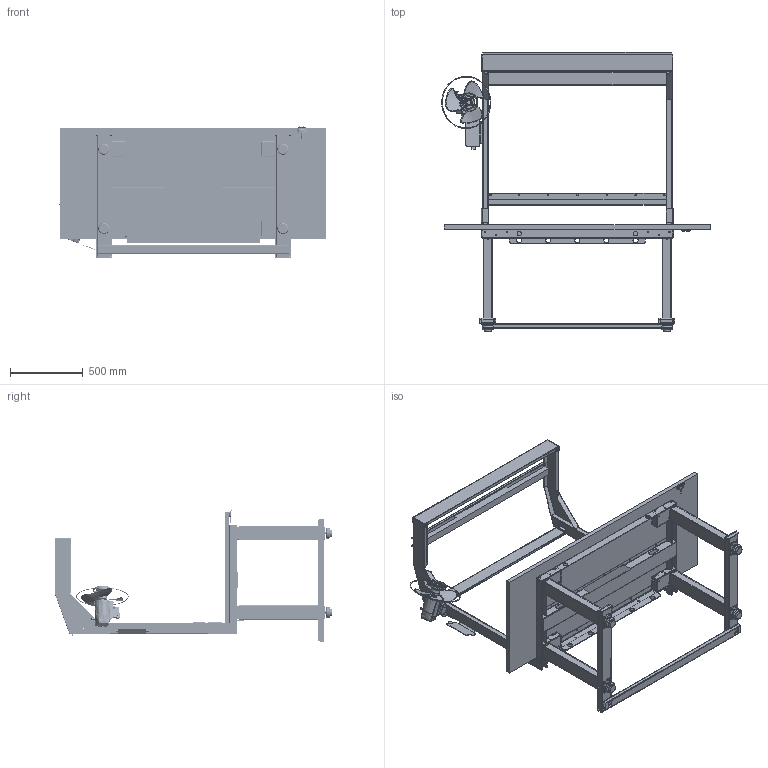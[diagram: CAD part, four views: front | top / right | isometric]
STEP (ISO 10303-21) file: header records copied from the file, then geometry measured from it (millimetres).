
FILE_DESCRIPTION (( 'STEP AP214' ), '1' );
FILE_NAME ('72INX30IN.STEP', '2018-10-08T17:52:54', ( '' ), ( '' ), 'SwSTEP 2.0', 'SolidWorks 2018', '' );
FILE_SCHEMA (( 'AUTOMOTIVE_DESIGN' ));
Length unit declared in the file: millimetre
Products named in the file (2): 72INX30IN
Bounding box: 1847.58 x 1924.07 x 901.72 mm (x, y, z)
Surface area: 13132222.6 mm2 (no closed solid volume)
Topology: 0 solids, 114 shells, 8461 faces, 23901 edges, 15537 vertices
Faces by surface type: plane 5364, cylinder 2440, bspline 581, cone 76
Full cylindrical faces by diameter (mm): 3.6 x8, 4 x3, 4.2 x8, 4.6 x1, 5 x96, 5.8 x2, 6 x6, 6.35 x4, 6.4 x10, 6.647 x4, 6.7 x8, 6.8 x37, 7 x38, 7.937 x2, 7.938 x2, 8 x9, 8.5 x8, 9.347 x16, 9.525 x8, 10 x22, 11.35 x8, 12 x4, 14 x1, 17 x2, 19.25 x8, 30 x2, 30.636 x1, 35 x5, 49.7 x4, 63.994 x1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
Entity records: 429388 total; most frequent: CARTESIAN_POINT 123304, ORIENTED_EDGE 44978, DIRECTION 41004, EDGE_CURVE 23191, VECTOR 16746, LINE 16746, VERTEX_POINT 15336, AXIS2_PLACEMENT_3D 12129
